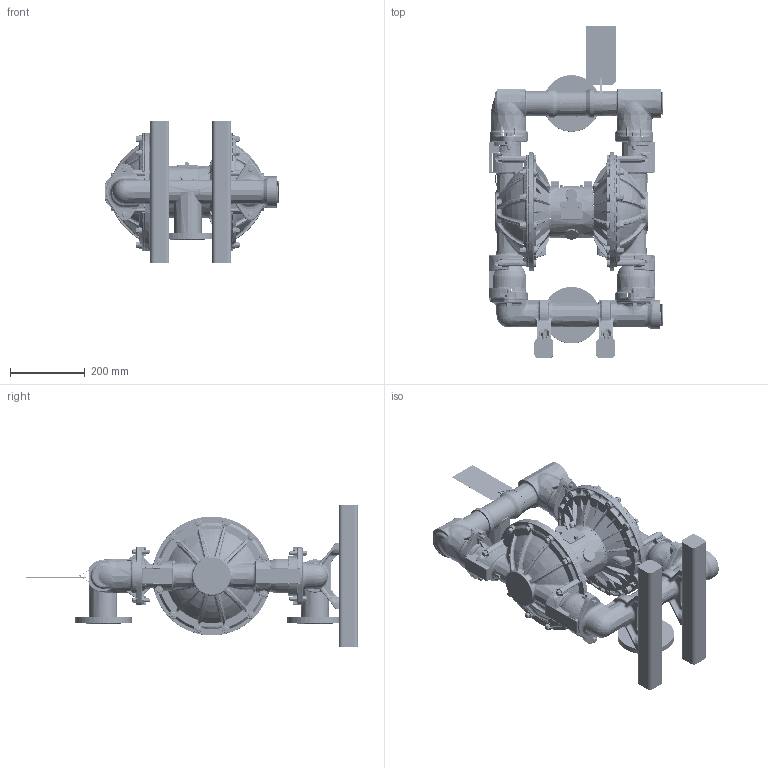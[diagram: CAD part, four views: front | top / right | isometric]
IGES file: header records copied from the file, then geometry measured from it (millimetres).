
Start section:  PTC IGES file: 25c658-en-b.igs
Global section: file name: 25c658-en-b.igs; native system: Creo Parametric by PTC Inc.; preprocessor: 2019030; author: qusrh3; organization: Unknown; date: 20191231.193152; units: inch
Bounding box: 466.78 x 886.08 x 381 mm (x, y, z)
Surface area: 1772704.5 mm2 (no closed solid volume)
Topology: 0 solids, 0 shells, 6544 faces, 30442 edges, 30441 vertices
Faces by surface type: bspline 3463, revolution 3081
